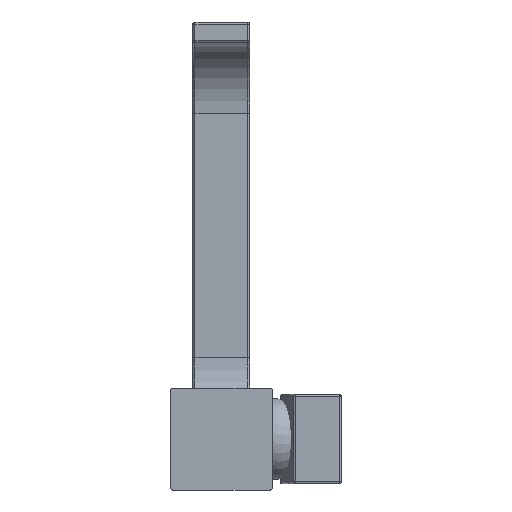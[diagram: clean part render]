
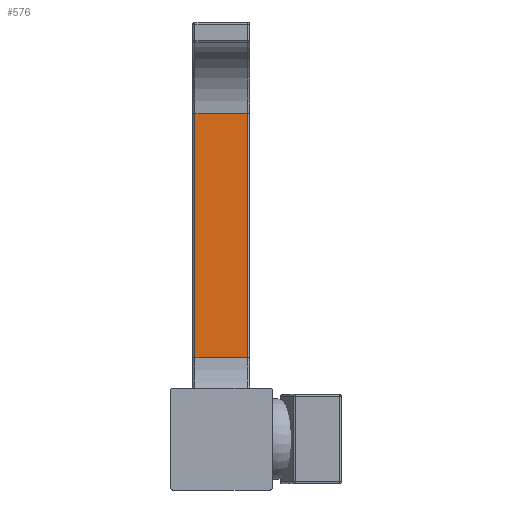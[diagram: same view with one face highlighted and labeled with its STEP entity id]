
A CAD part, front view. The second image highlights one B-rep face of the part: STEP entity #576.
In plain terms, the highlighted planar face has unit normal (0, -1, 0).
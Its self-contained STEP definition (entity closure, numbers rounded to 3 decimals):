
#576=ADVANCED_FACE('',(#1401),#1403,.T.);
#1401=FACE_BOUND('',#1402,.T.);
#1402=EDGE_LOOP('',(#1965,#1966,#1967,#1968));
#1403=PLANE('',#1404);
#1404=AXIS2_PLACEMENT_3D('',#1405,#1406,#1407);
#1405=CARTESIAN_POINT('',(-14.,355.,40.));
#1406=DIRECTION('',(0.,-1.,0.));
#1407=DIRECTION('',(1.,0.,0.));
#1965=ORIENTED_EDGE('',*,*,#2257,.F.);
#1966=ORIENTED_EDGE('',*,*,#2246,.T.);
#1967=ORIENTED_EDGE('',*,*,#2236,.T.);
#1968=ORIENTED_EDGE('',*,*,#2270,.F.);
#2236=EDGE_CURVE('',#2509,#2506,#2510,.T.);
#2246=EDGE_CURVE('',#2522,#2509,#2524,.T.);
#2257=EDGE_CURVE('',#2522,#2540,#2541,.T.);
#2270=EDGE_CURVE('',#2540,#2506,#2556,.T.);
#2506=VERTEX_POINT('',#3062);
#2509=VERTEX_POINT('',#3071);
#2510=LINE('',#3072,#3073);
#2522=VERTEX_POINT('',#3108);
#2524=LINE('',#3113,#3114);
#2540=VERTEX_POINT('',#3158);
#2541=LINE('',#3159,#3160);
#2556=LINE('',#3206,#3207);
#3062=CARTESIAN_POINT('',(13.,355.,160.));
#3071=CARTESIAN_POINT('',(13.,355.,40.));
#3072=CARTESIAN_POINT('',(13.,355.,40.));
#3073=VECTOR('',#3074,1.);
#3074=DIRECTION('',(0.,0.,1.));
#3108=CARTESIAN_POINT('',(-13.,355.,40.));
#3113=CARTESIAN_POINT('',(-13.,355.,40.));
#3114=VECTOR('',#3115,1.);
#3115=DIRECTION('',(1.,0.,0.));
#3158=CARTESIAN_POINT('',(-13.,355.,160.));
#3159=CARTESIAN_POINT('',(-13.,355.,40.));
#3160=VECTOR('',#3161,1.);
#3161=DIRECTION('',(0.,0.,1.));
#3206=CARTESIAN_POINT('',(-13.,355.,160.));
#3207=VECTOR('',#3208,1.);
#3208=DIRECTION('',(1.,0.,0.));
